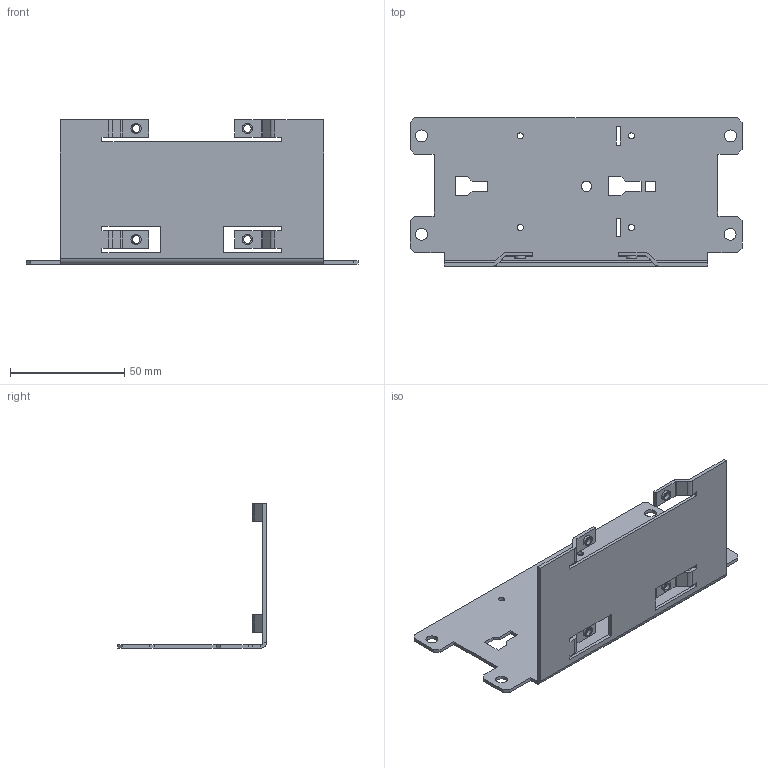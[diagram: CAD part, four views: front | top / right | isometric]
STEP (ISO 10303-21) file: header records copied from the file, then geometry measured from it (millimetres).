
FILE_DESCRIPTION((''),'2;1');
FILE_NAME('F:\Konstruktion\Wall_Mount\ZM13_SIDE\md3_zm13_side.stp','2009-08-27T11:11:04',('hoerl'),(''),'Autodesk Inventor 2009','Autodesk Inventor 2009','');
FILE_SCHEMA(('AUTOMOTIVE_DESIGN { 1 0 10303 214 1 1 1 1 }'));
Length unit declared in the file: millimetre
Products named in the file (1): EW-339.820.00
Bounding box: 145 x 65 x 63 mm (x, y, z)
Volume: 21917.7 mm3; surface area: 31122.5 mm2
Topology: 1 solids, 1 shells, 143 faces, 403 edges, 266 vertices
Faces by surface type: plane 104, cylinder 35, torus 4
Full cylindrical faces by diameter (mm): 2.7 x4, 3.3 x4, 4.5 x5, 5.2 x4
Entity records: 4552 total; most frequent: CARTESIAN_POINT 784, ORIENTED_EDGE 756, DIRECTION 740, EDGE_CURVE 378, VECTOR 304, LINE 304, VERTEX_POINT 262, AXIS2_PLACEMENT_3D 218
